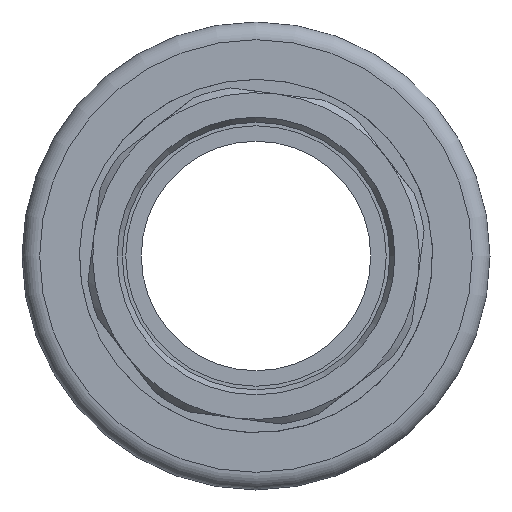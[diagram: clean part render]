
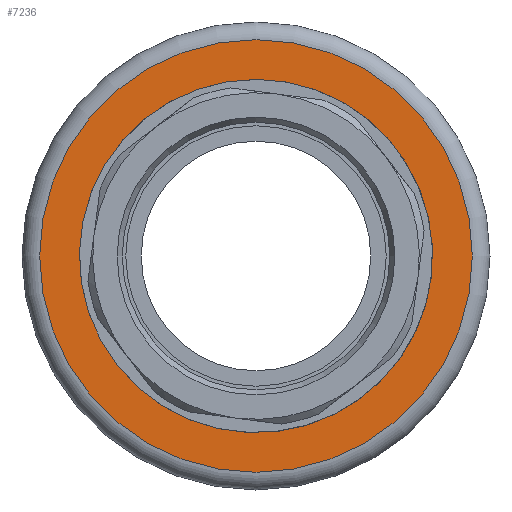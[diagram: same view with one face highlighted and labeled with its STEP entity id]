
A CAD part, left-side view. The second image highlights one B-rep face of the part: STEP entity #7236.
In plain terms, the highlighted planar face has unit normal (-1, 0, 0).
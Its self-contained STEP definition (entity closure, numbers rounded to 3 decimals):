
#378=PLANE('',#9561);
#926=CIRCLE('',#9202,20.);
#1096=CIRCLE('',#9562,24.5);
#2401=ORIENTED_EDGE('',*,*,#3673,.T.);
#2402=ORIENTED_EDGE('',*,*,#4142,.T.);
#3673=EDGE_CURVE('',#4820,#4820,#926,.F.);
#4142=EDGE_CURVE('',#5071,#5071,#1096,.T.);
#4820=VERTEX_POINT('',#12179);
#5071=VERTEX_POINT('',#15165);
#6112=EDGE_LOOP('',(#2401));
#6113=EDGE_LOOP('',(#2402));
#6642=FACE_BOUND('',#6112,.T.);
#6643=FACE_BOUND('',#6113,.T.);
#7236=ADVANCED_FACE('',(#6642,#6643),#378,.T.);
#9202=AXIS2_PLACEMENT_3D('',#12178,#10096,#10097);
#9561=AXIS2_PLACEMENT_3D('',#15163,#10872,#10873);
#9562=AXIS2_PLACEMENT_3D('',#15164,#10874,#10875);
#10096=DIRECTION('',(-1.,0.,0.));
#10097=DIRECTION('',(0.,0.,1.));
#10872=DIRECTION('',(-1.,0.,0.));
#10873=DIRECTION('',(0.,0.,1.));
#10874=DIRECTION('',(-1.,0.,0.));
#10875=DIRECTION('',(0.,0.,1.));
#12178=CARTESIAN_POINT('',(0.,0.,0.));
#12179=CARTESIAN_POINT('',(0.,0.,20.));
#15163=CARTESIAN_POINT('',(0.,0.,18.));
#15164=CARTESIAN_POINT('',(0.,0.,0.));
#15165=CARTESIAN_POINT('',(0.,0.,24.5));
